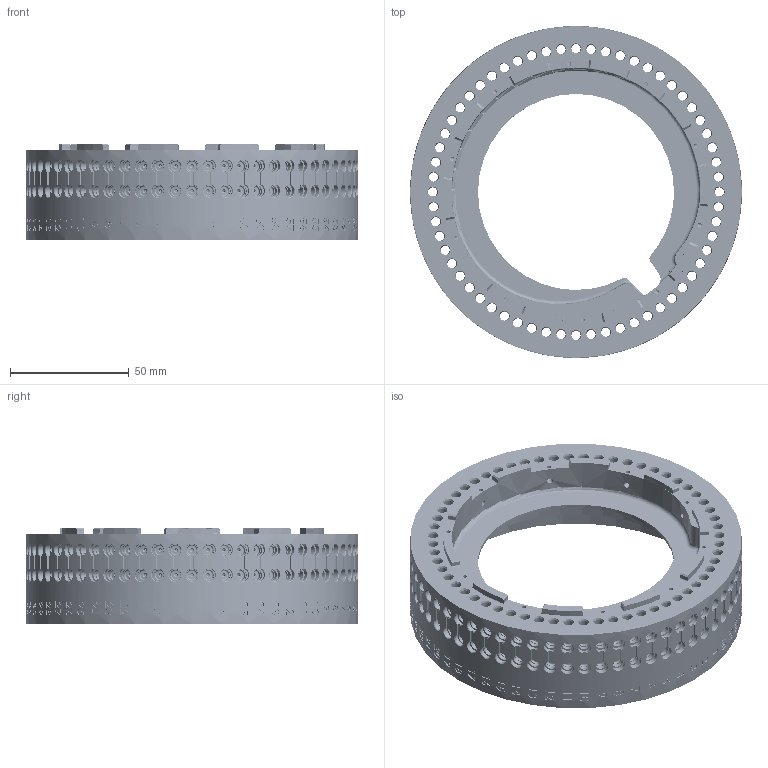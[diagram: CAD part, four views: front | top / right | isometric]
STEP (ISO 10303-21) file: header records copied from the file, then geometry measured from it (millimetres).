
FILE_DESCRIPTION (( 'STEP AP214' ), '1' );
FILE_NAME ('P-201730-15revG.STEP', '2023-03-23T21:20:01', ( '' ), ( '' ), 'SwSTEP 2.0', 'SolidWorks 2021', '' );
FILE_SCHEMA (( 'AUTOMOTIVE_DESIGN' ));
Length unit declared in the file: millimetre
Products named in the file (1): P-201730-15revG
Bounding box: 139.7 x 139.7 x 40.25 mm (x, y, z)
Volume: 170728.1 mm3; surface area: 84287.1 mm2
Topology: 1 solids, 1 shells, 7510 faces, 19627 edges, 12678 vertices
Faces by surface type: cylinder 2462, bspline 1989, plane 1450, cone 1019, torus 590
Entity records: 565715 total; most frequent: CARTESIAN_POINT 394074, ORIENTED_EDGE 39250, DIRECTION 30321, EDGE_CURVE 19625, VERTEX_POINT 12678, AXIS2_PLACEMENT_3D 12491, EDGE_LOOP 8615, FACE_OUTER_BOUND 7510
